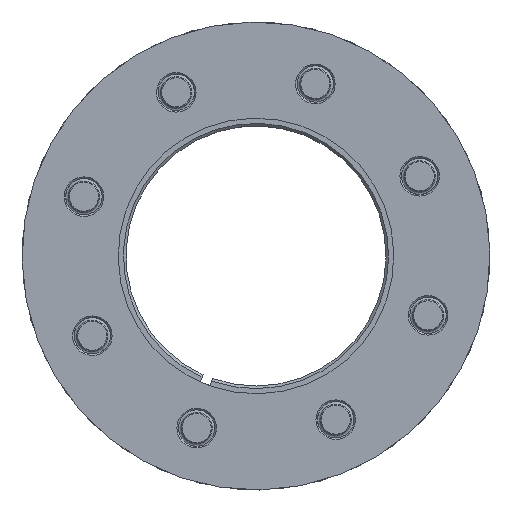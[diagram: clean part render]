
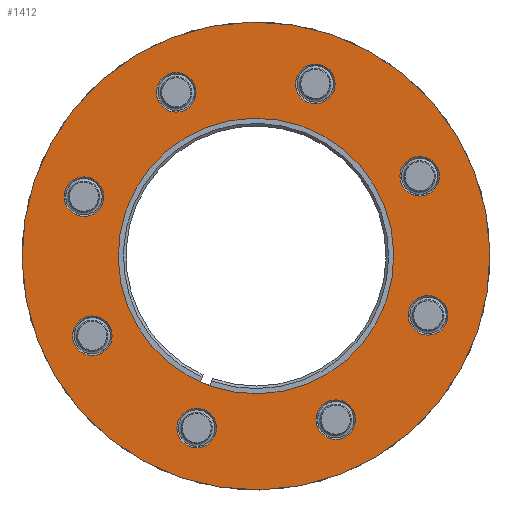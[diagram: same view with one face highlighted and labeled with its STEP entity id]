
A CAD part, left-side view. The second image highlights one B-rep face of the part: STEP entity #1412.
In plain terms, the highlighted planar face has unit normal (-1, 0, 0).
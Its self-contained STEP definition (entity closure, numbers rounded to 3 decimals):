
#127=FACE_BOUND('',#497,.T.);
#128=FACE_BOUND('',#498,.T.);
#129=FACE_BOUND('',#499,.T.);
#130=FACE_BOUND('',#500,.T.);
#131=FACE_BOUND('',#501,.T.);
#132=FACE_BOUND('',#502,.T.);
#133=FACE_BOUND('',#503,.T.);
#134=FACE_BOUND('',#504,.T.);
#135=FACE_BOUND('',#505,.T.);
#200=PLANE('',#1567);
#349=FACE_OUTER_BOUND('',#496,.T.);
#496=EDGE_LOOP('',(#1136));
#497=EDGE_LOOP('',(#1137));
#498=EDGE_LOOP('',(#1138));
#499=EDGE_LOOP('',(#1139));
#500=EDGE_LOOP('',(#1140));
#501=EDGE_LOOP('',(#1141));
#502=EDGE_LOOP('',(#1142));
#503=EDGE_LOOP('',(#1143));
#504=EDGE_LOOP('',(#1144));
#505=EDGE_LOOP('',(#1145));
#653=CIRCLE('',#1566,3.8);
#654=CIRCLE('',#1568,45.);
#655=CIRCLE('',#1569,3.8);
#656=CIRCLE('',#1570,3.8);
#657=CIRCLE('',#1571,3.8);
#658=CIRCLE('',#1572,3.8);
#659=CIRCLE('',#1573,26.5);
#660=CIRCLE('',#1574,3.8);
#661=CIRCLE('',#1575,3.8);
#662=CIRCLE('',#1576,3.8);
#775=VERTEX_POINT('',#2317);
#776=VERTEX_POINT('',#2320);
#777=VERTEX_POINT('',#2322);
#778=VERTEX_POINT('',#2324);
#779=VERTEX_POINT('',#2326);
#780=VERTEX_POINT('',#2328);
#781=VERTEX_POINT('',#2330);
#782=VERTEX_POINT('',#2332);
#783=VERTEX_POINT('',#2334);
#784=VERTEX_POINT('',#2336);
#913=EDGE_CURVE('',#775,#775,#653,.T.);
#914=EDGE_CURVE('',#776,#776,#654,.T.);
#915=EDGE_CURVE('',#777,#777,#655,.T.);
#916=EDGE_CURVE('',#778,#778,#656,.T.);
#917=EDGE_CURVE('',#779,#779,#657,.T.);
#918=EDGE_CURVE('',#780,#780,#658,.T.);
#919=EDGE_CURVE('',#781,#781,#659,.T.);
#920=EDGE_CURVE('',#782,#782,#660,.T.);
#921=EDGE_CURVE('',#783,#783,#661,.T.);
#922=EDGE_CURVE('',#784,#784,#662,.T.);
#1136=ORIENTED_EDGE('',*,*,#914,.T.);
#1137=ORIENTED_EDGE('',*,*,#915,.F.);
#1138=ORIENTED_EDGE('',*,*,#916,.F.);
#1139=ORIENTED_EDGE('',*,*,#917,.F.);
#1140=ORIENTED_EDGE('',*,*,#918,.F.);
#1141=ORIENTED_EDGE('',*,*,#919,.F.);
#1142=ORIENTED_EDGE('',*,*,#920,.F.);
#1143=ORIENTED_EDGE('',*,*,#921,.F.);
#1144=ORIENTED_EDGE('',*,*,#922,.F.);
#1145=ORIENTED_EDGE('',*,*,#913,.F.);
#1412=ADVANCED_FACE('',(#349,#127,#128,#129,#130,#131,#132,#133,#134,#135),
#200,.T.);
#1566=AXIS2_PLACEMENT_3D('',#2318,#1875,#1876);
#1567=AXIS2_PLACEMENT_3D('',#2319,#1877,#1878);
#1568=AXIS2_PLACEMENT_3D('',#2321,#1879,#1880);
#1569=AXIS2_PLACEMENT_3D('',#2323,#1881,#1882);
#1570=AXIS2_PLACEMENT_3D('',#2325,#1883,#1884);
#1571=AXIS2_PLACEMENT_3D('',#2327,#1885,#1886);
#1572=AXIS2_PLACEMENT_3D('',#2329,#1887,#1888);
#1573=AXIS2_PLACEMENT_3D('',#2331,#1889,#1890);
#1574=AXIS2_PLACEMENT_3D('',#2333,#1891,#1892);
#1575=AXIS2_PLACEMENT_3D('',#2335,#1893,#1894);
#1576=AXIS2_PLACEMENT_3D('',#2337,#1895,#1896);
#1875=DIRECTION('center_axis',(-1.,0.,0.));
#1876=DIRECTION('ref_axis',(0.,0.,-1.));
#1877=DIRECTION('center_axis',(-1.,0.,0.));
#1878=DIRECTION('ref_axis',(0.,0.,1.));
#1879=DIRECTION('center_axis',(-1.,0.,0.));
#1880=DIRECTION('ref_axis',(0.,-1.,0.));
#1881=DIRECTION('center_axis',(-1.,0.,0.));
#1882=DIRECTION('ref_axis',(0.,0.,-1.));
#1883=DIRECTION('center_axis',(-1.,0.,0.));
#1884=DIRECTION('ref_axis',(0.,0.,-1.));
#1885=DIRECTION('center_axis',(-1.,0.,0.));
#1886=DIRECTION('ref_axis',(0.,0.,-1.));
#1887=DIRECTION('center_axis',(-1.,0.,0.));
#1888=DIRECTION('ref_axis',(0.,0.,-1.));
#1889=DIRECTION('center_axis',(-1.,0.,0.));
#1890=DIRECTION('ref_axis',(0.,-1.,0.));
#1891=DIRECTION('center_axis',(-1.,0.,0.));
#1892=DIRECTION('ref_axis',(0.,0.,-1.));
#1893=DIRECTION('center_axis',(-1.,0.,0.));
#1894=DIRECTION('ref_axis',(0.,0.,-1.));
#1895=DIRECTION('center_axis',(-1.,0.,0.));
#1896=DIRECTION('ref_axis',(0.,0.,-1.));
#2317=CARTESIAN_POINT('',(0.,45.,-31.2));
#2318=CARTESIAN_POINT('Origin',(0.,45.,-35.));
#2319=CARTESIAN_POINT('Origin',(0.,9.25,0.));
#2320=CARTESIAN_POINT('',(0.,0.,0.));
#2321=CARTESIAN_POINT('Origin',(0.,45.,0.));
#2322=CARTESIAN_POINT('',(0.,69.749,-20.949));
#2323=CARTESIAN_POINT('Origin',(0.,69.749,-24.749));
#2324=CARTESIAN_POINT('',(0.,69.749,28.549));
#2325=CARTESIAN_POINT('Origin',(0.,69.749,24.749));
#2326=CARTESIAN_POINT('',(0.,20.251,28.549));
#2327=CARTESIAN_POINT('Origin',(0.,20.251,24.749));
#2328=CARTESIAN_POINT('',(0.,20.251,-20.949));
#2329=CARTESIAN_POINT('Origin',(0.,20.251,-24.749));
#2330=CARTESIAN_POINT('',(0.,18.5,0.));
#2331=CARTESIAN_POINT('Origin',(0.,45.,0.));
#2332=CARTESIAN_POINT('',(0.,10.,3.8));
#2333=CARTESIAN_POINT('Origin',(0.,10.,0.));
#2334=CARTESIAN_POINT('',(0.,45.,38.8));
#2335=CARTESIAN_POINT('Origin',(0.,45.,35.));
#2336=CARTESIAN_POINT('',(0.,80.,3.8));
#2337=CARTESIAN_POINT('Origin',(0.,80.,0.));
